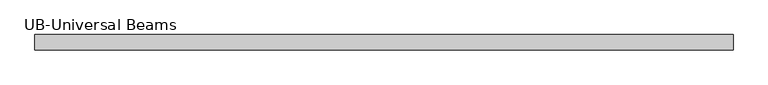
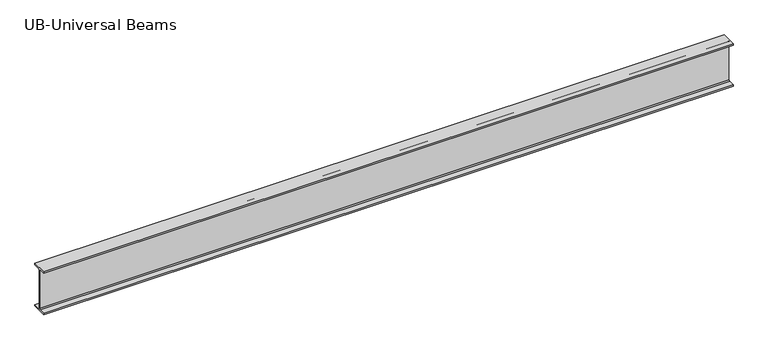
"""IFC4 building model written with IfcOpenShell, lengths in millimetres: beam geometry."""

from ifc_helpers import new_model, si_unit, point, frame, frame_2d, origin, place, context, project, spatial, polyline, circle_curve, trimmed, segment, composite_curve, outline, extrude, source, transform, mapped, element, save


def ub_universal_beams_9ada3ad7(model_context):
    return source(origin(), model_context, "Body", "SweptSolid", [
        extrude(outline(composite_curve([segment(polyline([(76.9, -214.0), (76.9, -229.0), (-76.9, -229.0), (-76.9, -214.0), (-14.7, -214.0)]), True, "CONTINUOUS"), segment(trimmed(circle_curve(frame_2d((-14.7, -203.8)), 10.2), [point((-14.7, -214.0))], [point((-4.5, -203.8))], True, "CARTESIAN"), True, "CONTINUOUS"), segment(polyline([(-4.5, -203.8), (-4.5, 203.8)]), True, "CONTINUOUS"), segment(trimmed(circle_curve(frame_2d((-14.7, 203.8)), 10.2), [point((-4.5, 203.8))], [point((-14.7, 214.0))], True, "CARTESIAN"), True, "CONTINUOUS"), segment(polyline([(-14.7, 214.0), (-76.9, 214.0), (-76.9, 229.0), (76.9, 229.0), (76.9, 214.0), (14.7, 214.0)]), True, "CONTINUOUS"), segment(trimmed(circle_curve(frame_2d((14.7, 203.8)), 10.2), [point((14.7, 214.0))], [point((4.5, 203.8))], True, "CARTESIAN"), True, "CONTINUOUS"), segment(polyline([(4.5, 203.8), (4.5, -203.8)]), True, "CONTINUOUS"), segment(trimmed(circle_curve(frame_2d((14.7, -203.8)), 10.2), [point((4.5, -203.8))], [point((14.7, -214.0))], True, "CARTESIAN"), True, "CONTINUOUS"), segment(polyline([(14.7, -214.0), (76.9, -214.0)]), True, "CONTINUOUS")], self_intersect=False)), frame((-3536.6, 0.0, 0.0), z_axis=(1.0, 0.0, 0.0), x_axis=(0.0, 1.0, 0.0)), (0.0, 0.0, 1.0), 6986.4),
    ])


if __name__ == "__main__":
    model = new_model("IFC4")
    model_context = context("Model", 3, world=origin())
    ifc_project = project(units=[si_unit("LENGTHUNIT", "METRE", prefix="MILLI")], contexts=[model_context])
    site = spatial("IfcSite", under=ifc_project)
    building = spatial("IfcBuilding", under=site)
    placement = place(None, origin())
    ub_universal_beams_shape = ub_universal_beams_9ada3ad7(model_context)
    element("IfcBeam", 1, ObjectType="UB-Universal Beams : UB 18\" x 6\" x 2 1/2\"", at=placement, inside=building, context=model_context, shape_type="MappedRepresentation", body=[
        mapped(ub_universal_beams_shape, transform((0.0, 0.0, 0.0), x_axis=(1.0, 0.0, 0.0), y_axis=(0.0, 1.0, 0.0), z_axis=(0.0, 0.0, 1.0))),
    ])
    save(model, "model.ifc")
